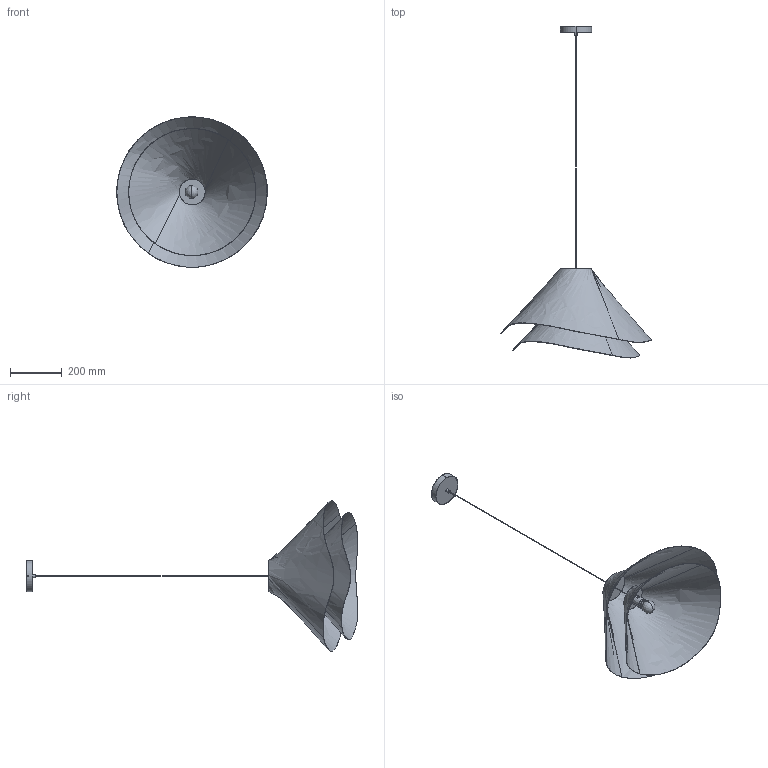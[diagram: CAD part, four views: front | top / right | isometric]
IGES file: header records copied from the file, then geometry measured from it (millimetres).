
Start section: SolidWorks IGES file using analytic representation for surfaces
Global section: file name: F:\燠隴矨\3D\2025-10\Tempo Viva Pendant Light-D58cm.IGS,15; native system: HSolidWorks 2022; preprocessor: SolidWorks 2022; author: MyPC; date: 251008.105726; units: millimetre
Bounding box: 579.56 x 1277.99 x 579.37 mm (x, y, z)
Surface area: 1370912.9 mm2 (no closed solid volume)
Topology: 0 solids, 0 shells, 120 faces, 1553 edges, 1550 vertices
Faces by surface type: revolution 62, bspline 58
